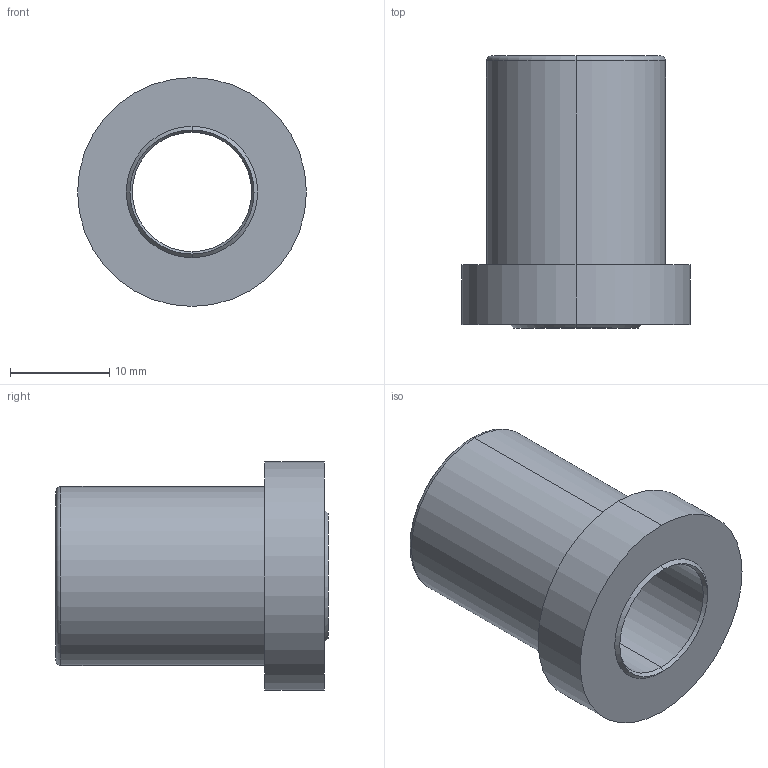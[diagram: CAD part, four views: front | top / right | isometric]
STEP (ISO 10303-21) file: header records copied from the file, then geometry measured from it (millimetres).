
FILE_DESCRIPTION (( 'STEP AP214' ), '1' );
FILE_NAME ('BR11W 12 x 27.STEP', '2020-07-16T14:08:52', ( 'August' ), ( '' ), 'SwSTEP 2.0', 'SolidWorks 2018', '' );
FILE_SCHEMA (( 'AUTOMOTIVE_DESIGN' ));
Length unit declared in the file: millimetre
Products named in the file (1): BR11W 12 x 27
Bounding box: 23 x 27.36 x 23 mm (x, y, z)
Volume: 4779.5 mm3; surface area: 3234.2 mm2
Topology: 1 solids, 1 shells, 17 faces, 34 edges, 20 vertices
Faces by surface type: cone 6, cylinder 6, plane 3, torus 2
Entity records: 484 total; most frequent: DIRECTION 92, CARTESIAN_POINT 72, ORIENTED_EDGE 68, AXIS2_PLACEMENT_3D 40, EDGE_CURVE 34, CIRCLE 22, EDGE_LOOP 20, VERTEX_POINT 20
